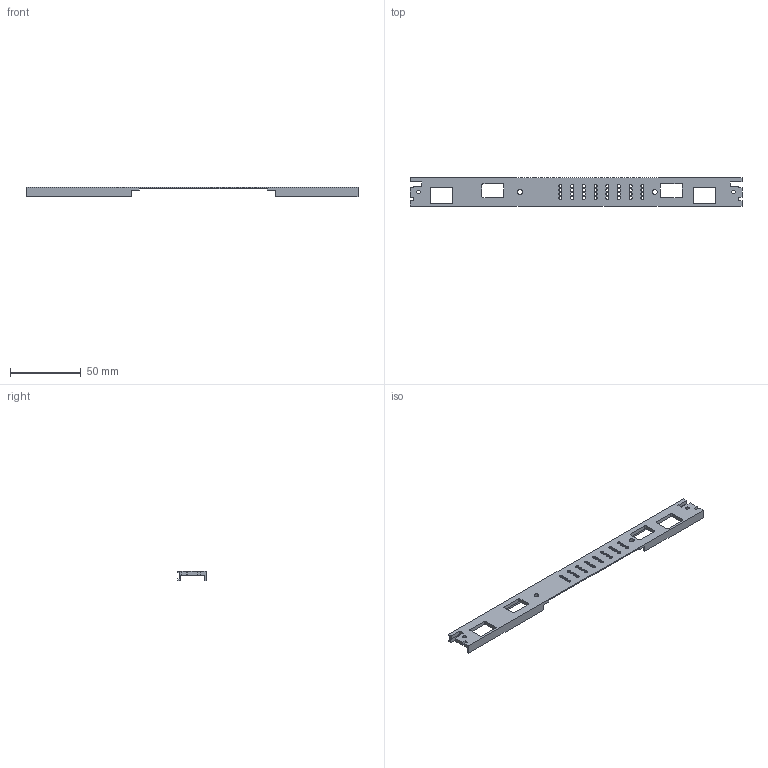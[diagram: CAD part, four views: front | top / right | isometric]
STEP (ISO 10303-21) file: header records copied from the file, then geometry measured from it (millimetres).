
FILE_DESCRIPTION (( 'STEP AP214' ), '1' );
FILE_NAME ('126Y1766620_rev F_FVTX_FEM_Proto_Front_Panel.STEP', '2012-05-30T17:23:47', ( 'Windows User' ), ( 'Los Alamos National Laboratory' ), 'SwSTEP 2.0', 'SolidWorks 2010', '' );
FILE_SCHEMA (( 'AUTOMOTIVE_DESIGN' ));
Length unit declared in the file: inch
Products named in the file (1): 126Y1766620_rev F_FVTX_FEM_Proto_Front_Panel
Bounding box: 235.4 x 20 x 6.4 mm (x, y, z)
Volume: 7902.4 mm3; surface area: 11918.8 mm2
Topology: 1 solids, 1 shells, 152 faces, 450 edges, 300 vertices
Faces by surface type: cylinder 88, plane 64
Entity records: 5350 total; most frequent: DIRECTION 932, CARTESIAN_POINT 903, ORIENTED_EDGE 900, EDGE_CURVE 450, AXIS2_PLACEMENT_3D 329, VERTEX_POINT 300, VECTOR 274, LINE 274
